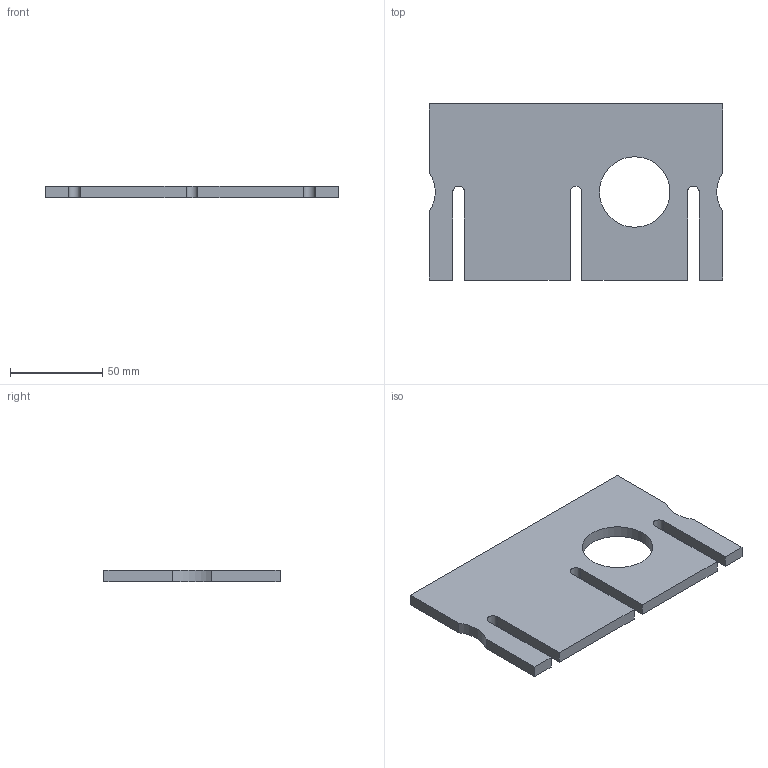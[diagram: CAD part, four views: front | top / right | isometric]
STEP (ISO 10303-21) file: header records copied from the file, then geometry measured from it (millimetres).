
FILE_DESCRIPTION((''),'2;1');
FILE_NAME('M:\jdazai\jdazai_home\private\Inventor Diagrams\maze parts\Waterjet Maze\micemaze_2-piece_holes_xo.stp','2014-09-25T09:10:55',('jdazai'),(''),'Autodesk Inventor 2013','Autodesk Inventor 2013','');
FILE_SCHEMA(('AUTOMOTIVE_DESIGN { 1 0 10303 214 1 1 1 1 }'));
Length unit declared in the file: millimetre
Products named in the file (1): Part9
Bounding box: 158.75 x 95.25 x 6.35 mm (x, y, z)
Volume: 82139.3 mm3; surface area: 31756 mm2
Topology: 1 solids, 1 shells, 23 faces, 63 edges, 42 vertices
Faces by surface type: plane 17, cylinder 6
Full cylindrical faces by diameter (mm): 38.1 x1
Entity records: 754 total; most frequent: CARTESIAN_POINT 128, ORIENTED_EDGE 124, DIRECTION 122, EDGE_CURVE 62, VECTOR 50, LINE 50, VERTEX_POINT 42, AXIS2_PLACEMENT_3D 36
